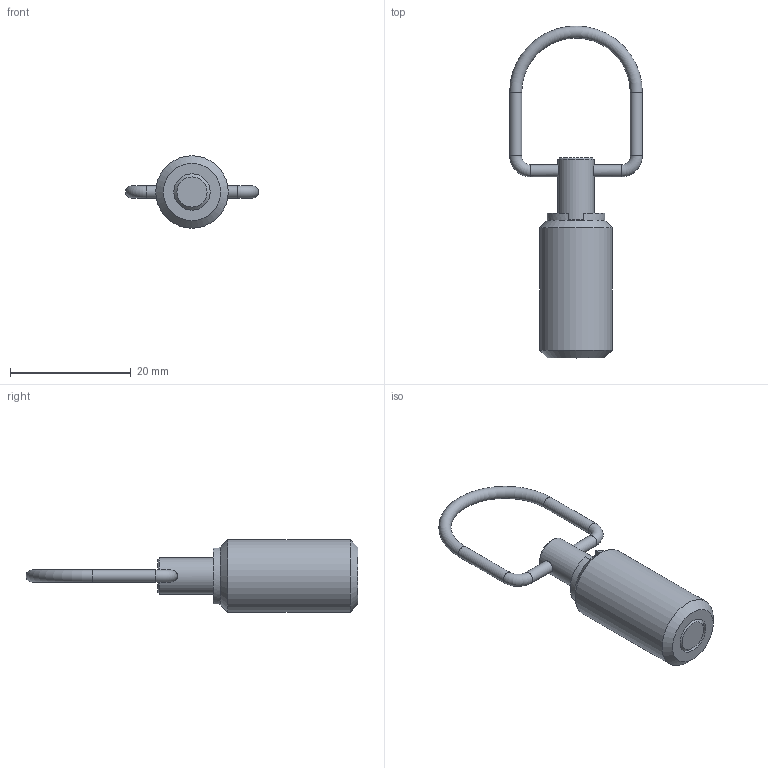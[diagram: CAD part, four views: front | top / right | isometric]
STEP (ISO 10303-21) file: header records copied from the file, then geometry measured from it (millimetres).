
FILE_DESCRIPTION( ( 'STEP AP203' ), '1' );
FILE_NAME( 'C:/Temp/Ganter_Step_05_03_2020/data/3_1/gn_413/gn413_st/gn413_st_a/Steel-Indexing plunger GN 413-6-M12-A-ST (activated).stp', '2020-03-12T09:10:17', ( 'License CC BY-ND 4.0' ), ( 'CADENAS' ), ' ', 'PARTsolutions', ' ' );
FILE_SCHEMA( ( 'CONFIG_CONTROL_DESIGN' ) );
Length unit declared in the file: millimetre
Products named in the file (3): Steel-Indexing plunger GN 413-6-M12-A-ST (activated); _Steel-Indexing plunger  GN 413-6-M12-A-ST (activated)_f; _Steel-Indexing plunger GN 413-6-M12-A-ST (activated)_b
Assembly tree (2 placements, depth 2):
  Steel-Indexing plunger GN 413-6-M12-A-ST (activated)
    _Steel-Indexing plunger  GN 413-6-M12-A-ST (activated)_f
    _Steel-Indexing plunger GN 413-6-M12-A-ST (activated)_b
Bounding box: 22 x 55 x 12 mm (x, y, z)
Volume: 2913 mm3; surface area: 2710 mm2
Topology: 2 solids, 2 shells, 40 faces, 86 edges, 54 vertices
Faces by surface type: plane 16, cylinder 13, cone 8, torus 3
Full cylindrical faces by diameter (mm): 2 x4, 6 x4, 6.3 x1, 8 x2, 9.6 x1, 12 x1
Entity records: 1114 total; most frequent: CARTESIAN_POINT 225, DIRECTION 176, ORIENTED_EDGE 122, AXIS2_PLACEMENT_3D 80, EDGE_LOOP 68, EDGE_CURVE 61, FACE_OUTER_BOUND 56, VERTEX_POINT 49
